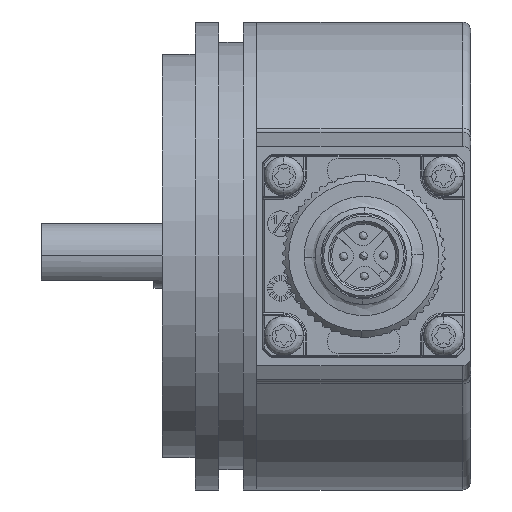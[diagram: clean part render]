
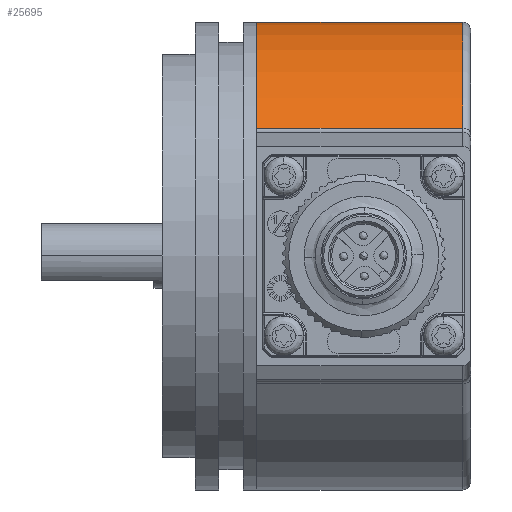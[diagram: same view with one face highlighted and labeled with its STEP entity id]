
A CAD part, front view. The second image highlights one B-rep face of the part: STEP entity #25695.
In plain terms, the highlighted cylindrical face has radius 29 mm (diameter 58 mm), a partial arc.
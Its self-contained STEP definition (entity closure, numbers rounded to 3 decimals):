
#257 = CARTESIAN_POINT ( 'NONE',  ( 33.568, 1.11, 15.807 ) ) ;
#2147 = LINE ( 'NONE', #2388, #15300 ) ;
#2388 = CARTESIAN_POINT ( 'NONE',  ( 8.068, 25.423, 29. ) ) ;
#5057 = LINE ( 'NONE', #19277, #21129 ) ;
#6613 = EDGE_CURVE ( 'NONE', #31104, #31753, #5057, .T. ) ;
#8179 = DIRECTION ( 'NONE',  ( 0., 0., -1. ) ) ;
#8378 = EDGE_CURVE ( 'NONE', #29956, #32256, #2147, .T. ) ;
#8801 = ORIENTED_EDGE ( 'NONE', *, *, #8378, .T. ) ;
#9271 = CARTESIAN_POINT ( 'NONE',  ( 8.068, 25.423, 29. ) ) ;
#9737 = AXIS2_PLACEMENT_3D ( 'NONE', #21905, #11422, #8179 ) ;
#10298 = CARTESIAN_POINT ( 'NONE',  ( 8.068, 25.423, 0. ) ) ;
#11422 = DIRECTION ( 'NONE',  ( -1., 0., 0. ) ) ;
#15300 = VECTOR ( 'NONE', #34362, 1000. ) ;
#15632 = CARTESIAN_POINT ( 'NONE',  ( 8.068, 1.11, 15.807 ) ) ;
#15952 = DIRECTION ( 'NONE',  ( -1., 0., 0. ) ) ;
#17001 = ORIENTED_EDGE ( 'NONE', *, *, #6613, .T. ) ;
#17736 = CARTESIAN_POINT ( 'NONE',  ( 33.568, 25.423, 29. ) ) ;
#19277 = CARTESIAN_POINT ( 'NONE',  ( 8.068, 1.11, 15.807 ) ) ;
#21017 = FACE_OUTER_BOUND ( 'NONE', #44937, .T. ) ;
#21129 = VECTOR ( 'NONE', #33515, 1000. ) ;
#21905 = CARTESIAN_POINT ( 'NONE',  ( 33.568, 25.423, 0. ) ) ;
#23380 = CARTESIAN_POINT ( 'NONE',  ( 8.068, 25.423, 0. ) ) ;
#23926 = EDGE_CURVE ( 'NONE', #31104, #32256, #37090, .T. ) ;
#24204 = ORIENTED_EDGE ( 'NONE', *, *, #36145, .T. ) ;
#24964 = DIRECTION ( 'NONE',  ( -1., 0., 0. ) ) ;
#25695 = ADVANCED_FACE ( 'NONE', ( #21017 ), #38534, .T. ) ;
#29956 = VERTEX_POINT ( 'NONE', #17736 ) ;
#30347 = AXIS2_PLACEMENT_3D ( 'NONE', #23380, #15952, #41852 ) ;
#30719 = ORIENTED_EDGE ( 'NONE', *, *, #23926, .F. ) ;
#31104 = VERTEX_POINT ( 'NONE', #15632 ) ;
#31753 = VERTEX_POINT ( 'NONE', #257 ) ;
#32256 = VERTEX_POINT ( 'NONE', #9271 ) ;
#33515 = DIRECTION ( 'NONE',  ( 1., 0., 0. ) ) ;
#34362 = DIRECTION ( 'NONE',  ( -1., 0., 0. ) ) ;
#36145 = EDGE_CURVE ( 'NONE', #31753, #29956, #38790, .T. ) ;
#37090 = CIRCLE ( 'NONE', #30347, 29. ) ;
#38534 = CYLINDRICAL_SURFACE ( 'NONE', #42446, 29. ) ;
#38790 = CIRCLE ( 'NONE', #9737, 29. ) ;
#41852 = DIRECTION ( 'NONE',  ( 0., 0., -1. ) ) ;
#42446 = AXIS2_PLACEMENT_3D ( 'NONE', #10298, #24964, #42503 ) ;
#42503 = DIRECTION ( 'NONE',  ( 0., 0., -1. ) ) ;
#44937 = EDGE_LOOP ( 'NONE', ( #24204, #8801, #30719, #17001 ) ) ;
